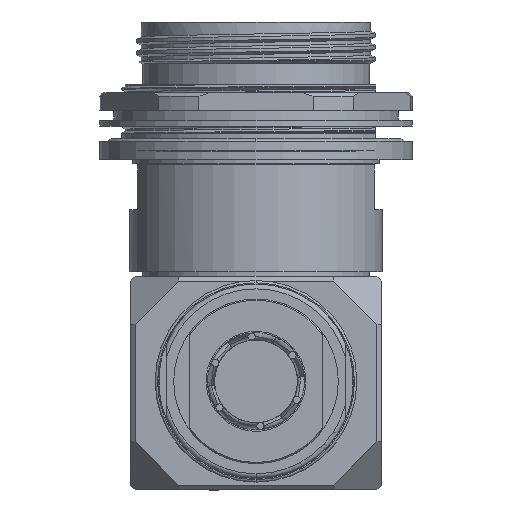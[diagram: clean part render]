
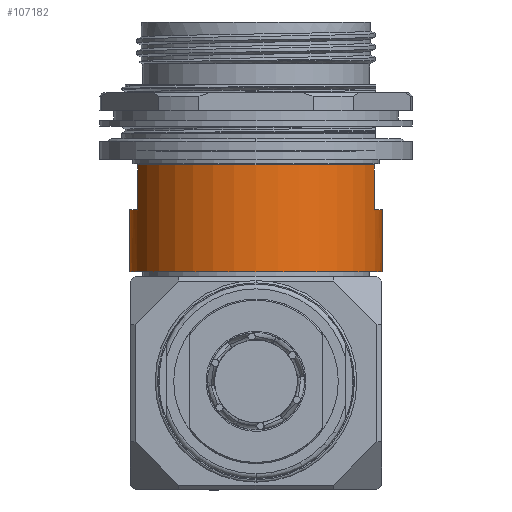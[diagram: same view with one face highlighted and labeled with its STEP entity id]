
A CAD part, front view. The second image highlights one B-rep face of the part: STEP entity #107182.
In plain terms, the highlighted cylindrical face has radius 26.797 mm (diameter 53.594 mm), a partial arc.
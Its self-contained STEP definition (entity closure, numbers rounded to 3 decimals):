
#892 = EDGE_CURVE ( 'NONE', #126465, #43899, #28888, .T. ) ;
#4472 = ORIENTED_EDGE ( 'NONE', *, *, #31960, .F. ) ;
#7578 = VERTEX_POINT ( 'NONE', #87975 ) ;
#13605 = ORIENTED_EDGE ( 'NONE', *, *, #49248, .F. ) ;
#15268 = EDGE_CURVE ( 'NONE', #33678, #49946, #101096, .T. ) ;
#16556 = CARTESIAN_POINT ( 'NONE',  ( -25.146, -9.261, -39.853 ) ) ;
#17765 = VERTEX_POINT ( 'NONE', #92789 ) ;
#20142 = CARTESIAN_POINT ( 'NONE',  ( 0., 0., -39.853 ) ) ;
#20628 = ORIENTED_EDGE ( 'NONE', *, *, #25517, .F. ) ;
#21052 = DIRECTION ( 'NONE',  ( 0., 0., 1. ) ) ;
#22502 = DIRECTION ( 'NONE',  ( 0., 0., 1. ) ) ;
#22646 = CARTESIAN_POINT ( 'NONE',  ( -26.797, 0., -30.328 ) ) ;
#23926 = ORIENTED_EDGE ( 'NONE', *, *, #64319, .T. ) ;
#25517 = EDGE_CURVE ( 'NONE', #94424, #17765, #70711, .T. ) ;
#28888 = LINE ( 'NONE', #91072, #125050 ) ;
#31594 = CARTESIAN_POINT ( 'NONE',  ( 0., 0., -39.853 ) ) ;
#31960 = EDGE_CURVE ( 'NONE', #17765, #49946, #121806, .T. ) ;
#32507 = CIRCLE ( 'NONE', #92602, 26.797 ) ;
#33678 = VERTEX_POINT ( 'NONE', #107044 ) ;
#34383 = CARTESIAN_POINT ( 'NONE',  ( -26.797, 0., -53.01 ) ) ;
#37211 = CIRCLE ( 'NONE', #95162, 26.797 ) ;
#43899 = VERTEX_POINT ( 'NONE', #118156 ) ;
#45835 = DIRECTION ( 'NONE',  ( 1., 0., 0. ) ) ;
#45947 = DIRECTION ( 'NONE',  ( 0., 0., -1. ) ) ;
#47738 = CYLINDRICAL_SURFACE ( 'NONE', #78356, 26.797 ) ;
#48371 = EDGE_CURVE ( 'NONE', #33678, #126465, #37211, .T. ) ;
#49248 = EDGE_CURVE ( 'NONE', #103653, #94424, #32507, .T. ) ;
#49625 = ORIENTED_EDGE ( 'NONE', *, *, #15268, .T. ) ;
#49946 = VERTEX_POINT ( 'NONE', #34383 ) ;
#52965 = DIRECTION ( 'NONE',  ( 1., 0., 0. ) ) ;
#53368 = DIRECTION ( 'NONE',  ( 1., 0., 0. ) ) ;
#58243 = ORIENTED_EDGE ( 'NONE', *, *, #83035, .F. ) ;
#64319 = EDGE_CURVE ( 'NONE', #7578, #43899, #108841, .T. ) ;
#64343 = ORIENTED_EDGE ( 'NONE', *, *, #48371, .F. ) ;
#66639 = DIRECTION ( 'NONE',  ( 0., 0., -1. ) ) ;
#70711 = LINE ( 'NONE', #109637, #121622 ) ;
#75720 = CARTESIAN_POINT ( 'NONE',  ( 0., 0., -53.01 ) ) ;
#76605 = ORIENTED_EDGE ( 'NONE', *, *, #892, .F. ) ;
#78356 = AXIS2_PLACEMENT_3D ( 'NONE', #114551, #96375, #45835 ) ;
#80381 = DIRECTION ( 'NONE',  ( 0., 0., -1. ) ) ;
#81443 = VECTOR ( 'NONE', #80381, 1000. ) ;
#82534 = CARTESIAN_POINT ( 'NONE',  ( 0., 0., -30.328 ) ) ;
#83035 = EDGE_CURVE ( 'NONE', #7578, #103653, #123770, .T. ) ;
#87975 = CARTESIAN_POINT ( 'NONE',  ( 25.146, -9.261, -30.328 ) ) ;
#90106 = EDGE_LOOP ( 'NONE', ( #64343, #49625, #4472, #20628, #13605, #58243, #23926, #76605 ) ) ;
#91072 = CARTESIAN_POINT ( 'NONE',  ( -25.146, -9.261, -30.328 ) ) ;
#92602 = AXIS2_PLACEMENT_3D ( 'NONE', #20142, #118059, #99860 ) ;
#92789 = CARTESIAN_POINT ( 'NONE',  ( 26.797, 0., -53.01 ) ) ;
#94424 = VERTEX_POINT ( 'NONE', #102071 ) ;
#95162 = AXIS2_PLACEMENT_3D ( 'NONE', #31594, #22502, #52965 ) ;
#96375 = DIRECTION ( 'NONE',  ( 0., 0., -1. ) ) ;
#96448 = AXIS2_PLACEMENT_3D ( 'NONE', #82534, #113012, #53368 ) ;
#98614 = DIRECTION ( 'NONE',  ( 0., 0., -1. ) ) ;
#99860 = DIRECTION ( 'NONE',  ( 1., 0., 0. ) ) ;
#101096 = LINE ( 'NONE', #22646, #81443 ) ;
#102071 = CARTESIAN_POINT ( 'NONE',  ( 26.797, 0., -39.853 ) ) ;
#103653 = VERTEX_POINT ( 'NONE', #110147 ) ;
#107044 = CARTESIAN_POINT ( 'NONE',  ( -26.797, 0., -39.853 ) ) ;
#107182 = ADVANCED_FACE ( 'NONE', ( #126191 ), #47738, .T. ) ;
#108841 = CIRCLE ( 'NONE', #96448, 26.797 ) ;
#109637 = CARTESIAN_POINT ( 'NONE',  ( 26.797, 0., -30.328 ) ) ;
#110147 = CARTESIAN_POINT ( 'NONE',  ( 25.146, -9.261, -39.853 ) ) ;
#113012 = DIRECTION ( 'NONE',  ( 0., 0., -1. ) ) ;
#114027 = CARTESIAN_POINT ( 'NONE',  ( 25.146, -9.261, -30.328 ) ) ;
#114551 = CARTESIAN_POINT ( 'NONE',  ( 0., 0., -30.328 ) ) ;
#115605 = AXIS2_PLACEMENT_3D ( 'NONE', #75720, #66639, #125651 ) ;
#116880 = VECTOR ( 'NONE', #45947, 1000. ) ;
#118059 = DIRECTION ( 'NONE',  ( 0., 0., 1. ) ) ;
#118156 = CARTESIAN_POINT ( 'NONE',  ( -25.146, -9.261, -30.328 ) ) ;
#121622 = VECTOR ( 'NONE', #98614, 1000. ) ;
#121806 = CIRCLE ( 'NONE', #115605, 26.797 ) ;
#123770 = LINE ( 'NONE', #114027, #116880 ) ;
#125050 = VECTOR ( 'NONE', #21052, 1000. ) ;
#125651 = DIRECTION ( 'NONE',  ( 1., 0., 0. ) ) ;
#126191 = FACE_OUTER_BOUND ( 'NONE', #90106, .T. ) ;
#126465 = VERTEX_POINT ( 'NONE', #16556 ) ;
